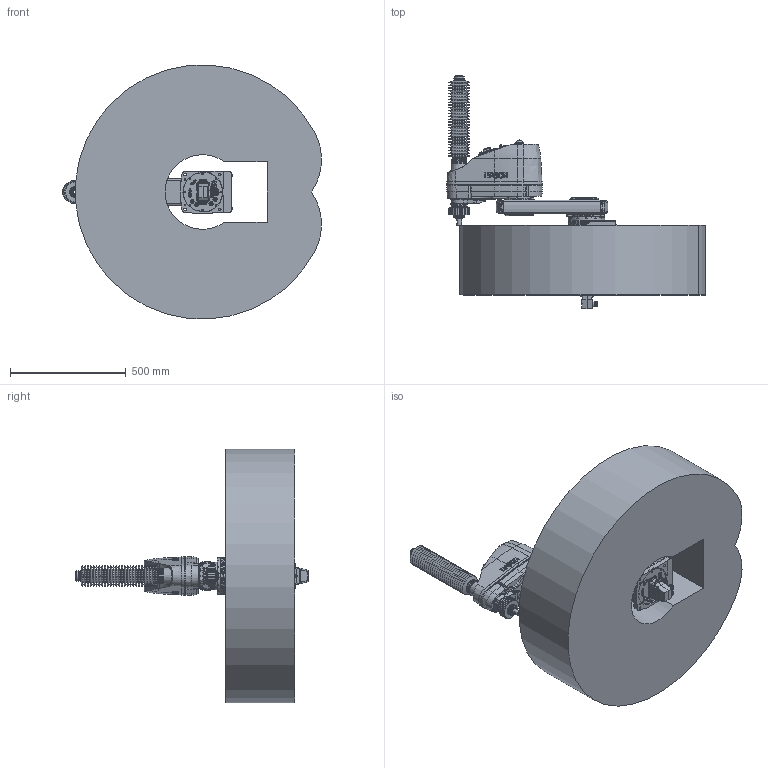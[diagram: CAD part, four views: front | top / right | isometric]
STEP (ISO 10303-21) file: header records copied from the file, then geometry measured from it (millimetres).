
FILE_DESCRIPTION( ( 'STEP AP214' ), '1' );
FILE_NAME( 'C:/Users/9607552/Desktop/GX8-B553CB_langle.stp', '2023-07-07T02:33:10', ( '' ), ( '' ), ' ', 'PARTsolutions', ' ' );
FILE_SCHEMA( ( 'AUTOMOTIVE_DESIGN { 1 0 10303 214 1 1 1 1 }' ) );
Length unit declared in the file: millimetre
Products named in the file (11): GX8-B553CB-AW; _B452CBbasegx8; _B552Sj1arm; _GX8-B553CBj1arm2; _GX8-B553CBj1arm1; _B452C_J2; _B453CZA; _2-B-long; _2-B-short; _Angle-B; _GX8-16-1-B_WS
Assembly tree (12 placements, depth 2):
  GX8-B553CB-AW
    _B452CBbasegx8
    _B552Sj1arm
    _GX8-B553CBj1arm2  x2
    _GX8-B553CBj1arm1  x2
    _B452C_J2
    _B453CZA
    _2-B-long
    _2-B-short
    _Angle-B
    _GX8-16-1-B_WS
Bounding box: 1119.76 x 1010.6 x 1098.33 mm (x, y, z)
Volume: 269997360.5 mm3; surface area: 4585338.4 mm2
Topology: 12 solids, 17 shells, 3458 faces, 8355 edges, 5394 vertices
Faces by surface type: plane 1639, cylinder 1127, cone 492, torus 158, bspline 37, sphere 5
Full cylindrical faces by diameter (mm): 1 x48, 1.18 x55, 2.459 x12, 3 x32, 3.242 x20, 3.3 x4, 3.9 x4, 4.2 x6, 4.5 x12, 4.8 x5, 4.917 x2, 5.34 x4, 5.5 x17, 6 x5, 6.2 x2, 6.647 x4, 6.8 x2, 7 x48, 8 x5, 8.5 x6, 9 x24, 10 x18, 10.106 x1, 11 x4, 11.2 x7, 11.5 x1, 12 x5, 12.25 x1, 13 x3, 13.2 x12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
Entity records: 122849 total; most frequent: CARTESIAN_POINT 23262, DIRECTION 15228, ORIENTED_EDGE 13704, EDGE_CURVE 6852, AXIS2_PLACEMENT_3D 5997, VERTEX_POINT 4980, EDGE_LOOP 4706, FACE_OUTER_BOUND 3899
